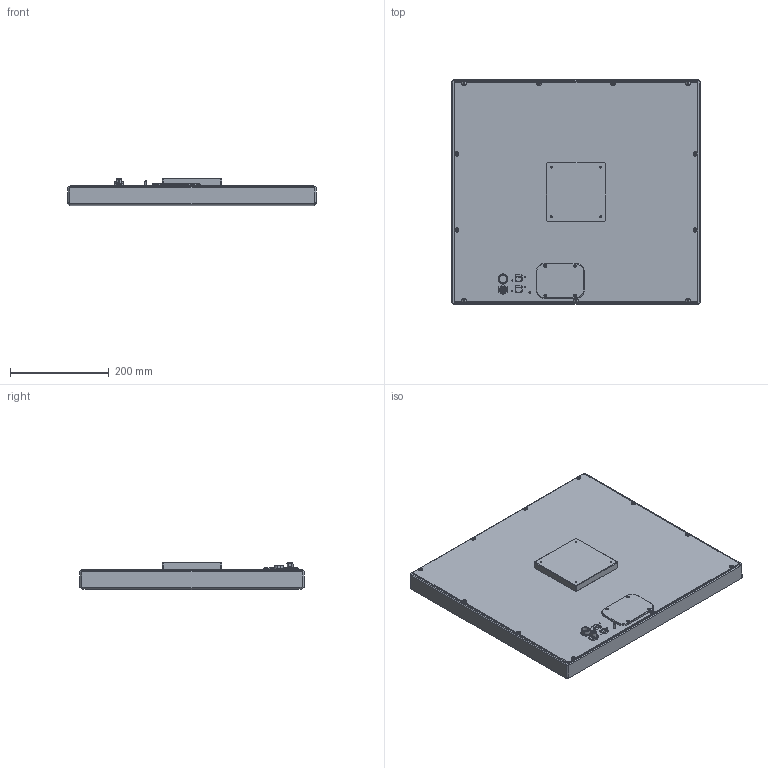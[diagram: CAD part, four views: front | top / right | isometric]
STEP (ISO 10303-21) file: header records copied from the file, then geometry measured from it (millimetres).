
FILE_DESCRIPTION((''),'2;1');
FILE_NAME('X:\0-inventor\0-3d-Teile\PC-Compo\solids\CP77\Ausgabe\CP7703-0001-M434.stp','2011-09-20T10:59:44',('ChristianKreuzer'),(''),'Autodesk Inventor 2011','Autodesk Inventor 2011','');
FILE_SCHEMA(('AUTOMOTIVE_DESIGN { 1 0 10303 214 1 1 1 1 }'));
Length unit declared in the file: millimetre
Products named in the file (1): Bauteil53
Bounding box: 504 x 455 x 55 mm (x, y, z)
Volume: 9115943.1 mm3; surface area: 562759.7 mm2
Topology: 1 solids, 13 shells, 716 faces, 1762 edges, 1113 vertices
Faces by surface type: plane 504, cylinder 110, cone 57, bspline 34, torus 11
Full cylindrical faces by diameter (mm): 1 x4, 2.459 x4, 3.242 x8, 4 x1, 7.6 x11, 10.3 x1, 15 x1, 20 x1
Entity records: 21024 total; most frequent: CARTESIAN_POINT 4119, ORIENTED_EDGE 3312, DIRECTION 3179, EDGE_CURVE 1656, VECTOR 1231, LINE 1231, VERTEX_POINT 1073, AXIS2_PLACEMENT_3D 974
